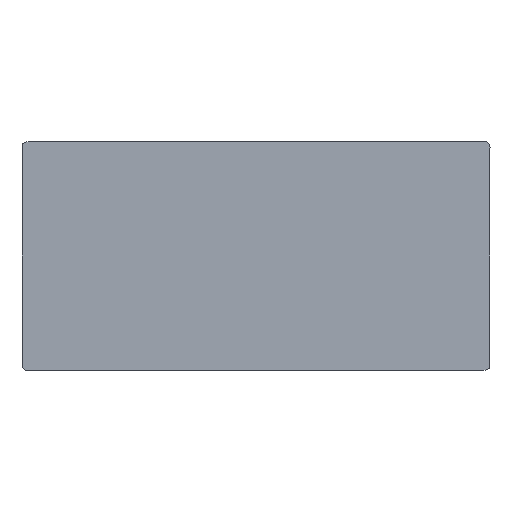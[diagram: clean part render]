
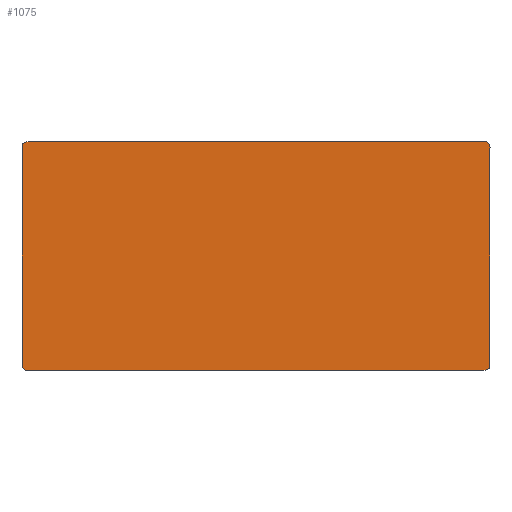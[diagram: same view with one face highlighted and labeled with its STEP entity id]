
A CAD part, front view. The second image highlights one B-rep face of the part: STEP entity #1075.
In plain terms, the highlighted planar face has unit normal (0, -1, 0).
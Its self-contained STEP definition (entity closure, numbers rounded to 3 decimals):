
#185 = B_SPLINE_CURVE_WITH_KNOTS ( 'NONE', 3,
 ( #218, #447, #2629, #1063 ),
 .UNSPECIFIED., .F., .F.,
 ( 4, 4 ),
 ( 0., 1. ),
 .UNSPECIFIED. ) ;
#199 = CARTESIAN_POINT ( 'NONE',  ( 18.458, 0., -9.1 ) ) ;
#213 = CARTESIAN_POINT ( 'NONE',  ( 18.625, 0., -8.933 ) ) ;
#218 = CARTESIAN_POINT ( 'NONE',  ( 18.625, 0., 8.6 ) ) ;
#222 = EDGE_CURVE ( 'NONE', #2195, #556, #185, .T. ) ;
#263 = EDGE_CURVE ( 'NONE', #1679, #2901, #1051, .T. ) ;
#380 = CARTESIAN_POINT ( 'NONE',  ( -18.625, 0., -8.933 ) ) ;
#391 = EDGE_CURVE ( 'NONE', #1222, #2901, #1761, .T. ) ;
#427 = CARTESIAN_POINT ( 'NONE',  ( 18.125, 0., -9.1 ) ) ;
#443 = CARTESIAN_POINT ( 'NONE',  ( -18.625, 0., -8.6 ) ) ;
#446 = ORIENTED_EDGE ( 'NONE', *, *, #2650, .F. ) ;
#447 = CARTESIAN_POINT ( 'NONE',  ( 18.625, 0., 8.933 ) ) ;
#455 = LINE ( 'NONE', #2233, #2124 ) ;
#508 = ORIENTED_EDGE ( 'NONE', *, *, #2710, .T. ) ;
#539 = VECTOR ( 'NONE', #1351, 1000. ) ;
#556 = VERTEX_POINT ( 'NONE', #2477 ) ;
#560 = CARTESIAN_POINT ( 'NONE',  ( 18.625, 0., -8.6 ) ) ;
#569 = LINE ( 'NONE', #2775, #1701 ) ;
#590 = CARTESIAN_POINT ( 'NONE',  ( 18.625, 0., 8.6 ) ) ;
#604 = EDGE_CURVE ( 'NONE', #1222, #2120, #2271, .T. ) ;
#635 = ORIENTED_EDGE ( 'NONE', *, *, #391, .T. ) ;
#694 = ORIENTED_EDGE ( 'NONE', *, *, #263, .F. ) ;
#868 = CARTESIAN_POINT ( 'NONE',  ( 18.625, 0., -9.1 ) ) ;
#925 = VERTEX_POINT ( 'NONE', #560 ) ;
#938 = CARTESIAN_POINT ( 'NONE',  ( -18.625, 0., -9.1 ) ) ;
#1051 = LINE ( 'NONE', #868, #539 ) ;
#1056 = B_SPLINE_CURVE_WITH_KNOTS ( 'NONE', 3,
 ( #1438, #2340, #2324, #2114 ),
 .UNSPECIFIED., .F., .F.,
 ( 4, 4 ),
 ( 0., 1. ),
 .UNSPECIFIED. ) ;
#1063 = CARTESIAN_POINT ( 'NONE',  ( 18.125, 0., 9.1 ) ) ;
#1075 = ADVANCED_FACE ( 'NONE', ( #1131 ), #1612, .T. ) ;
#1081 = VECTOR ( 'NONE', #1836, 1000. ) ;
#1131 = FACE_OUTER_BOUND ( 'NONE', #1730, .T. ) ;
#1222 = VERTEX_POINT ( 'NONE', #443 ) ;
#1228 = CARTESIAN_POINT ( 'NONE',  ( -18.125, 0., -9.1 ) ) ;
#1234 = EDGE_CURVE ( 'NONE', #1679, #925, #1971, .T. ) ;
#1329 = CARTESIAN_POINT ( 'NONE',  ( -18.458, 0., -9.1 ) ) ;
#1351 = DIRECTION ( 'NONE',  ( -1., 0., 0. ) ) ;
#1438 = CARTESIAN_POINT ( 'NONE',  ( -18.125, 0., 9.1 ) ) ;
#1457 = ORIENTED_EDGE ( 'NONE', *, *, #222, .T. ) ;
#1461 = DIRECTION ( 'NONE',  ( 1., 0., 0. ) ) ;
#1504 = CARTESIAN_POINT ( 'NONE',  ( -18.125, 0., 9.1 ) ) ;
#1524 = ORIENTED_EDGE ( 'NONE', *, *, #604, .F. ) ;
#1528 = CARTESIAN_POINT ( 'NONE',  ( -18.625, 0., 8.6 ) ) ;
#1582 = DIRECTION ( 'NONE',  ( 0., 0., -1. ) ) ;
#1612 = PLANE ( 'NONE',  #2868 ) ;
#1652 = EDGE_CURVE ( 'NONE', #2195, #925, #455, .T. ) ;
#1679 = VERTEX_POINT ( 'NONE', #2013 ) ;
#1701 = VECTOR ( 'NONE', #1461, 1000. ) ;
#1730 = EDGE_LOOP ( 'NONE', ( #1524, #635, #694, #2429, #2737, #1457, #446, #508 ) ) ;
#1755 = CARTESIAN_POINT ( 'NONE',  ( -18.625, 0., -8.6 ) ) ;
#1761 = B_SPLINE_CURVE_WITH_KNOTS ( 'NONE', 3,
 ( #1755, #380, #1329, #1953 ),
 .UNSPECIFIED., .F., .F.,
 ( 4, 4 ),
 ( 0., 1. ),
 .UNSPECIFIED. ) ;
#1836 = DIRECTION ( 'NONE',  ( 0., 0., 1. ) ) ;
#1875 = DIRECTION ( 'NONE',  ( 0., 0., -1. ) ) ;
#1878 = VERTEX_POINT ( 'NONE', #1504 ) ;
#1896 = DIRECTION ( 'NONE',  ( 0., -1., 0. ) ) ;
#1953 = CARTESIAN_POINT ( 'NONE',  ( -18.125, 0., -9.1 ) ) ;
#1971 = B_SPLINE_CURVE_WITH_KNOTS ( 'NONE', 3,
 ( #427, #199, #213, #2017 ),
 .UNSPECIFIED., .F., .F.,
 ( 4, 4 ),
 ( 0., 1. ),
 .UNSPECIFIED. ) ;
#2013 = CARTESIAN_POINT ( 'NONE',  ( 18.125, 0., -9.1 ) ) ;
#2017 = CARTESIAN_POINT ( 'NONE',  ( 18.625, 0., -8.6 ) ) ;
#2114 = CARTESIAN_POINT ( 'NONE',  ( -18.625, 0., 8.6 ) ) ;
#2120 = VERTEX_POINT ( 'NONE', #1528 ) ;
#2124 = VECTOR ( 'NONE', #1582, 1000. ) ;
#2195 = VERTEX_POINT ( 'NONE', #590 ) ;
#2233 = CARTESIAN_POINT ( 'NONE',  ( 18.625, 0., -9.1 ) ) ;
#2271 = LINE ( 'NONE', #938, #1081 ) ;
#2324 = CARTESIAN_POINT ( 'NONE',  ( -18.625, 0., 8.933 ) ) ;
#2340 = CARTESIAN_POINT ( 'NONE',  ( -18.458, 0., 9.1 ) ) ;
#2355 = CARTESIAN_POINT ( 'NONE',  ( 0., 0., 0. ) ) ;
#2429 = ORIENTED_EDGE ( 'NONE', *, *, #1234, .T. ) ;
#2477 = CARTESIAN_POINT ( 'NONE',  ( 18.125, 0., 9.1 ) ) ;
#2629 = CARTESIAN_POINT ( 'NONE',  ( 18.458, 0., 9.1 ) ) ;
#2650 = EDGE_CURVE ( 'NONE', #1878, #556, #569, .T. ) ;
#2710 = EDGE_CURVE ( 'NONE', #1878, #2120, #1056, .T. ) ;
#2737 = ORIENTED_EDGE ( 'NONE', *, *, #1652, .F. ) ;
#2775 = CARTESIAN_POINT ( 'NONE',  ( 18.625, 0., 9.1 ) ) ;
#2868 = AXIS2_PLACEMENT_3D ( 'NONE', #2355, #1896, #1875 ) ;
#2901 = VERTEX_POINT ( 'NONE', #1228 ) ;
